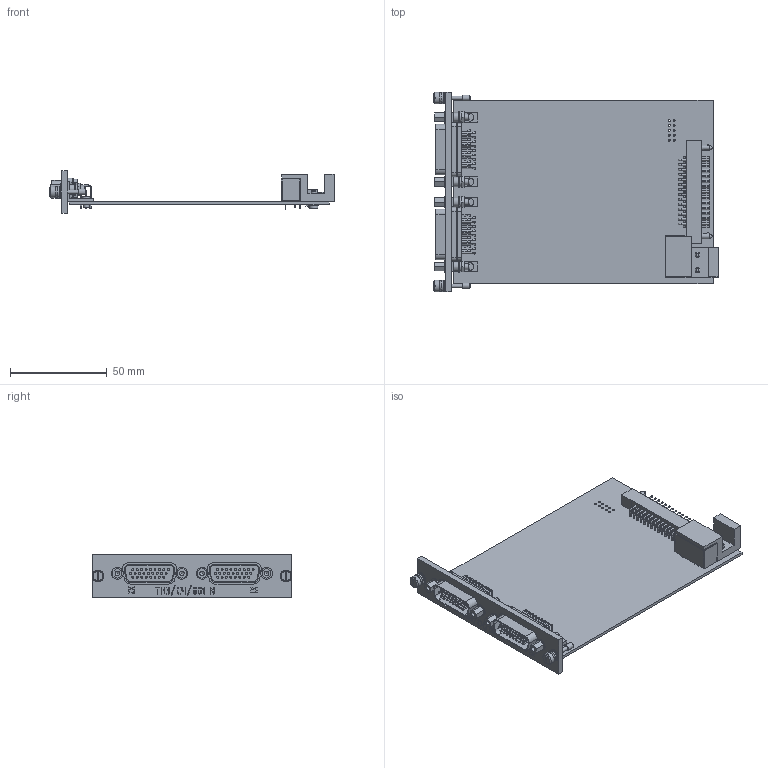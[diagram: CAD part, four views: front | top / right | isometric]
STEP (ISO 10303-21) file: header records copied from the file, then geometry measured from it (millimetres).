
FILE_DESCRIPTION(('STEP AP203'), '1');
FILE_NAME('帎迗.467166.001 沓劌錪 眝3_朒_001', '', ('UNSPECIFIED'), ('UNSPECIFIED'), 'C3D Converter', 'C3D Toolkit', '');
FILE_SCHEMA(('CONFIG_CONTROL_DESIGN'));
Length unit declared in the file: millimetre
Products named in the file (1): КМНТ.467166.001
Bounding box: 146.63 x 103 x 21.7 mm (x, y, z)
Volume: 38399.8 mm3; surface area: 46179.9 mm2
Topology: 3 solids, 3 shells, 2261 faces, 5945 edges, 3859 vertices
Faces by surface type: cylinder 1019, plane 1017, torus 91, cone 74, sphere 60
Full cylindrical faces by diameter (mm): 0.6 x177, 0.76 x52, 0.8 x29, 1 x189, 1.1 x7, 1.4 x2, 1.6 x2, 2 x2, 2.362 x4, 2.459 x2, 2.49 x2, 2.5 x4, 2.7 x2, 3 x8, 3.1 x4, 3.175 x8, 3.2 x8, 3.4 x2, 3.5 x4, 4 x4, 4.5 x2, 5 x6, 6 x14
Entity records: 91955 total; most frequent: CARTESIAN_POINT 18280, DIRECTION 12190, ORIENTED_EDGE 10372, EDGE_CURVE 5186, AXIS2_PLACEMENT_3D 4947, VERTEX_POINT 3830, EDGE_LOOP 3510, FACE_BOUND 2714
